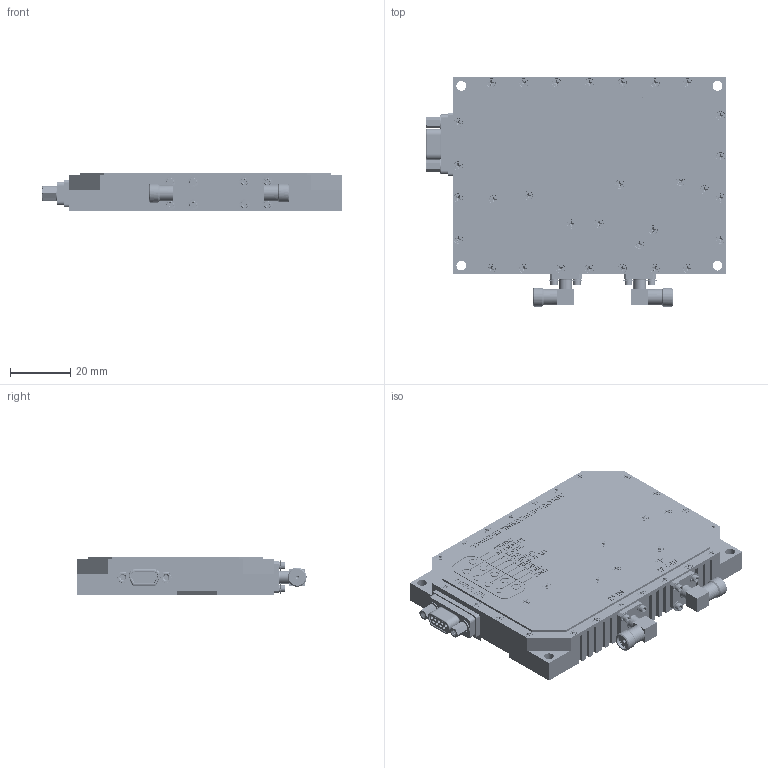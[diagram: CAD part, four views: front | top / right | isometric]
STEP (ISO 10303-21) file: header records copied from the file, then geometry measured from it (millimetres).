
FILE_DESCRIPTION (( 'STEP AP214' ), '1' );
FILE_NAME ('A6105-1000 - XXXXXXXX.STEP', '2023-03-24T17:41:25', ( '' ), ( '' ), 'SwSTEP 2.0', 'SolidWorks 2021', '' );
FILE_SCHEMA (( 'AUTOMOTIVE_DESIGN' ));
Length unit declared in the file: inch
Products named in the file (15): Part3 PART 2; MDM JACK POST_91075A512; A6105-1300; A6092-1300; A6105-1000 - XXXXXXXX; 375 RA SMA; 92146A510_92146A510; 96640A002_96640A002; 90945A700_90945A700; 92196A054_92196A054; MDM-9S; 91771A058    0-80 X .4375 SSFHPMS  _91771A058; SCREW STACK UP 0-80 x .188 long; MDM JACK POST LOCK_98449A500; Part3 PART 1
Assembly tree (53 placements, depth 3):
  A6105-1000 - XXXXXXXX
    A6092-1300
    A6105-1300
    MDM-9S
    MDM JACK POST_91075A512  x2
    MDM JACK POST LOCK_98449A500  x2
    96640A002_96640A002  x22
    375 RA SMA  x2
      Part3 PART 1
      Part3 PART 2
    91771A058    0-80 X .4375 SSFHPMS  _91771A058  x9
    SCREW STACK UP 0-80 x .188 long  x8
      92196A054_92196A054
      92146A510_92146A510
      90945A700_90945A700
Bounding box: 99.59 x 76.09 x 12.95 mm (x, y, z)
Volume: 38114.8 mm3; surface area: 41946.4 mm2
Topology: 66 solids, 72 shells, 6450 faces, 17758 edges, 11628 vertices
Faces by surface type: cylinder 2565, plane 2390, cone 755, bspline 719, torus 21
Entity records: 146649 total; most frequent: CARTESIAN_POINT 64265, ORIENTED_EDGE 17880, DIRECTION 14169, EDGE_CURVE 8940, VERTEX_POINT 5906, LINE 5865, VECTOR 5865, AXIS2_PLACEMENT_3D 4152
